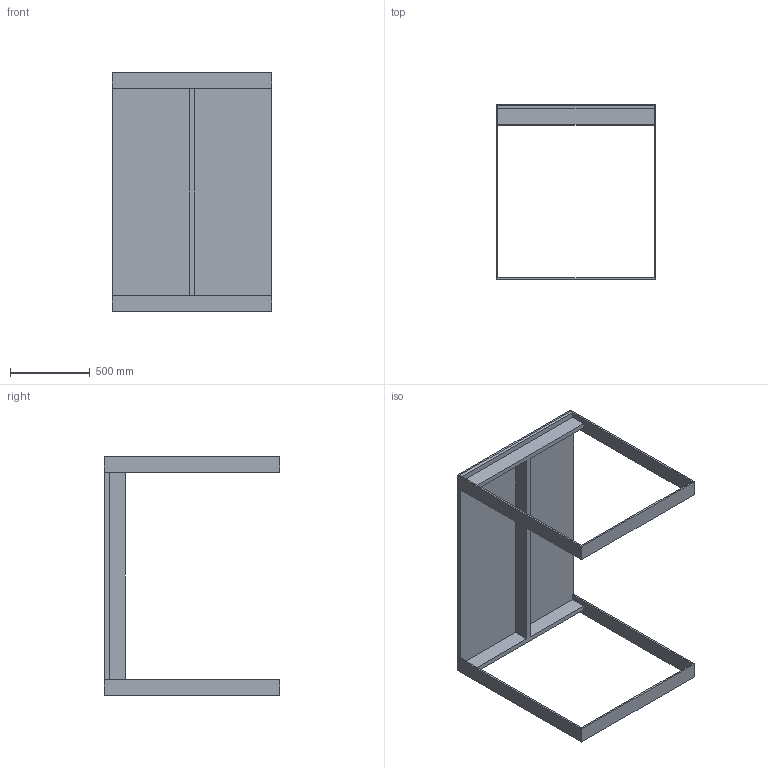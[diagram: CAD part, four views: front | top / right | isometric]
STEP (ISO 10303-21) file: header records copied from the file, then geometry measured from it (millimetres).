
FILE_DESCRIPTION (( 'STEP AP203' ), '1' );
FILE_NAME ('Haag 1500x1000x1100.STEP', '2019-04-02T18:13:51', ( '' ), ( '' ), 'SwSTEP 2.0', 'SolidWorks 2019', '' );
FILE_SCHEMA (( 'CONFIG_CONTROL_DESIGN' ));
Length unit declared in the file: millimetre
Products named in the file (1): Haag 1500x1000x1100
Bounding box: 1000 x 1100 x 1500 mm (x, y, z)
Volume: 61230000 mm3; surface area: 5840200 mm2
Topology: 4 solids, 4 shells, 48 faces, 120 edges, 80 vertices
Faces by surface type: plane 48
Entity records: 1483 total; most frequent: CARTESIAN_POINT 249, ORIENTED_EDGE 240, DIRECTION 218, VECTOR 120, LINE 120, EDGE_CURVE 120, VERTEX_POINT 80, EDGE_LOOP 52
